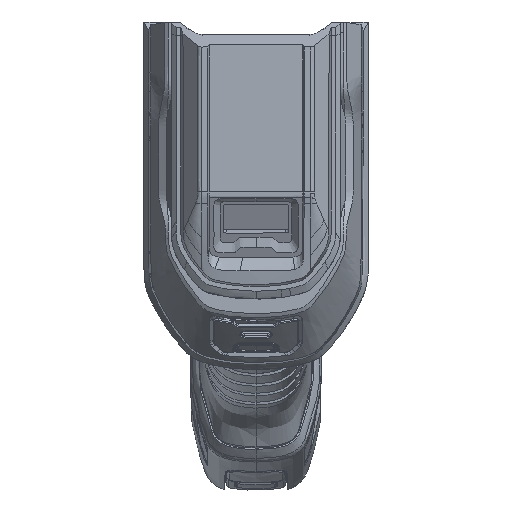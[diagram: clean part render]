
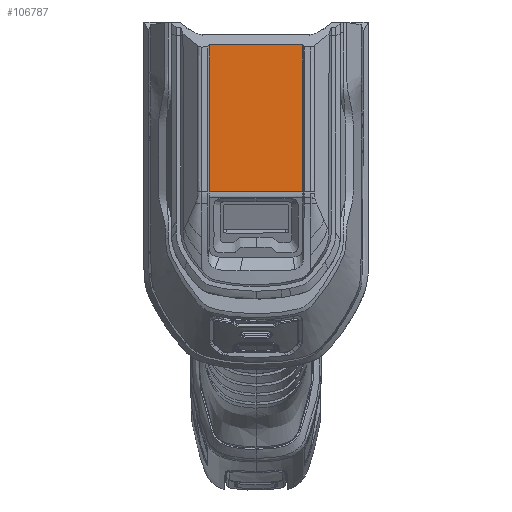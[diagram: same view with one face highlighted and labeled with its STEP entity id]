
A CAD part, top view. The second image highlights one B-rep face of the part: STEP entity #106787.
In plain terms, the highlighted planar face has unit normal (0, 0.015, 1) as drawn and (0, 0, 1) by its records, which use the part's own axes.
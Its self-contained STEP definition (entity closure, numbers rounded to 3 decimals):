
#67403=DIRECTION('',(-1.,0.,0.));
#67404=VECTOR('',#67403,30.69);
#67405=CARTESIAN_POINT('',(-184.667,62.021,
211.548));
#67406=LINE('',#67405,#67404);
#67435=DIRECTION('',(0.,-1.,0.));
#67436=VECTOR('',#67435,48.411);
#67437=CARTESIAN_POINT('',(-184.667,62.021,
211.548));
#67438=LINE('',#67437,#67436);
#78079=DIRECTION('',(-1.,0.,0.));
#78080=VECTOR('',#78079,30.69);
#78081=CARTESIAN_POINT('',(-184.658,13.61,
211.549));
#78082=LINE('',#78081,#78080);
#78295=DIRECTION('',(0.,-1.,0.));
#78296=VECTOR('',#78295,48.411);
#78297=CARTESIAN_POINT('',(-215.357,62.015,
211.548));
#78298=LINE('',#78297,#78296);
#80996=CARTESIAN_POINT('',(-184.658,13.61,
211.549));
#80997=CARTESIAN_POINT('',(-215.348,13.604,
211.545));
#80998=VERTEX_POINT('',#80996);
#80999=VERTEX_POINT('',#80997);
#81012=CARTESIAN_POINT('',(-184.667,62.021,
211.548));
#81013=VERTEX_POINT('',#81012);
#81014=CARTESIAN_POINT('',(-215.357,62.015,
211.548));
#81015=VERTEX_POINT('',#81014);
#106776=CARTESIAN_POINT('',(-218.613,8.576,
211.547));
#106777=DIRECTION('',(0.,0.,1.));
#106778=DIRECTION('',(1.,0.,0.));
#106779=AXIS2_PLACEMENT_3D('',#106776,#106777,#106778);
#106780=PLANE('',#106779);
#106781=ORIENTED_EDGE('',*,*,#81734,.F.);
#106782=ORIENTED_EDGE('',*,*,#81795,.T.);
#106783=ORIENTED_EDGE('',*,*,#106085,.T.);
#106784=ORIENTED_EDGE('',*,*,#106770,.F.);
#106785=EDGE_LOOP('',(#106781,#106782,#106783,#106784));
#106786=FACE_OUTER_BOUND('',#106785,.F.);
#106787=ADVANCED_FACE('',(#106786),#106780,.T.);
#81734=EDGE_CURVE('',#81013,#81015,#67406,.T.);
#81795=EDGE_CURVE('',#81013,#80998,#67438,.T.);
#106085=EDGE_CURVE('',#80998,#80999,#78082,.T.);
#106770=EDGE_CURVE('',#81015,#80999,#78298,.T.);
